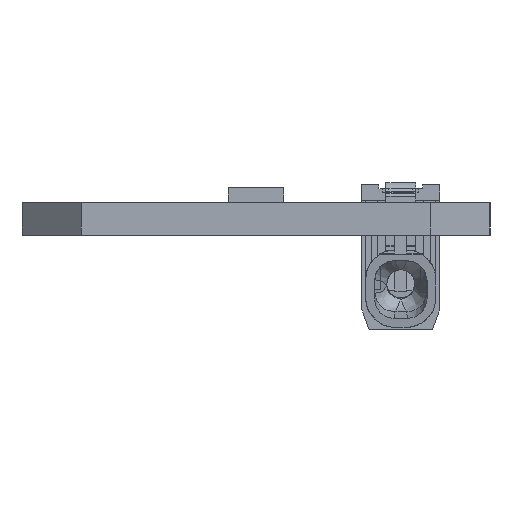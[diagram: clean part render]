
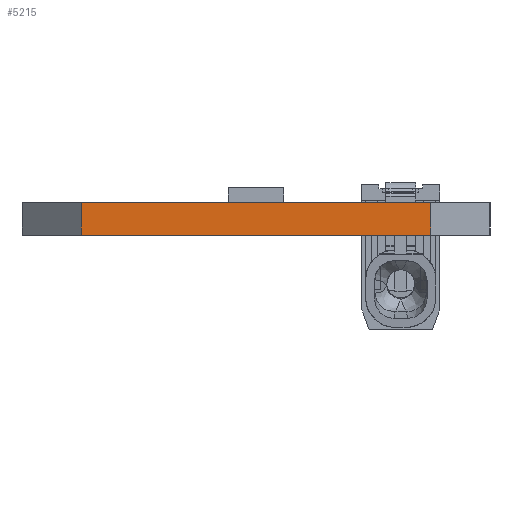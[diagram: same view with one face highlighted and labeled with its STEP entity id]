
A CAD part, left-side view. The second image highlights one B-rep face of the part: STEP entity #5215.
In plain terms, the highlighted planar face has unit normal (-1, 0, 0).
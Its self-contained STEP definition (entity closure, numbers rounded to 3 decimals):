
#90=DIRECTION('',(0.,1.,0.));
#91=VECTOR('',#90,17.6);
#92=CARTESIAN_POINT('',(-279.5,-8.8,0.));
#93=LINE('',#92,#91);
#342=DIRECTION('',(0.,-1.,0.));
#343=VECTOR('',#342,17.6);
#344=CARTESIAN_POINT('',(-279.5,8.8,1.65));
#345=LINE('',#344,#343);
#1384=DIRECTION('',(0.,0.,1.));
#1385=VECTOR('',#1384,1.65);
#1386=CARTESIAN_POINT('',(-279.5,-8.8,0.));
#1387=LINE('',#1386,#1385);
#1388=DIRECTION('',(0.,0.,1.));
#1389=VECTOR('',#1388,1.65);
#1390=CARTESIAN_POINT('',(-279.5,8.8,0.));
#1391=LINE('',#1390,#1389);
#3292=CARTESIAN_POINT('',(-279.5,8.8,0.));
#3294=VERTEX_POINT('',#3292);
#3296=CARTESIAN_POINT('',(-279.5,8.8,1.65));
#3297=CARTESIAN_POINT('',(-279.5,-8.8,1.65));
#3298=VERTEX_POINT('',#3296);
#3299=VERTEX_POINT('',#3297);
#3355=CARTESIAN_POINT('',(-279.5,-8.8,0.));
#3357=VERTEX_POINT('',#3355);
#5203=CARTESIAN_POINT('',(-279.5,8.8,1.65));
#5204=DIRECTION('',(-1.,0.,0.));
#5205=DIRECTION('',(0.,0.,1.));
#5206=AXIS2_PLACEMENT_3D('',#5203,#5204,#5205);
#5207=PLANE('',#5206);
#5208=ORIENTED_EDGE('',*,*,#5197,.F.);
#5209=ORIENTED_EDGE('',*,*,#4267,.T.);
#5211=ORIENTED_EDGE('',*,*,#5210,.T.);
#5212=ORIENTED_EDGE('',*,*,#4452,.T.);
#5213=EDGE_LOOP('',(#5208,#5209,#5211,#5212));
#5214=FACE_OUTER_BOUND('',#5213,.F.);
#5215=ADVANCED_FACE('',(#5214),#5207,.T.);
#4267=EDGE_CURVE('',#3357,#3294,#93,.T.);
#4452=EDGE_CURVE('',#3298,#3299,#345,.T.);
#5197=EDGE_CURVE('',#3357,#3299,#1387,.T.);
#5210=EDGE_CURVE('',#3294,#3298,#1391,.T.);
